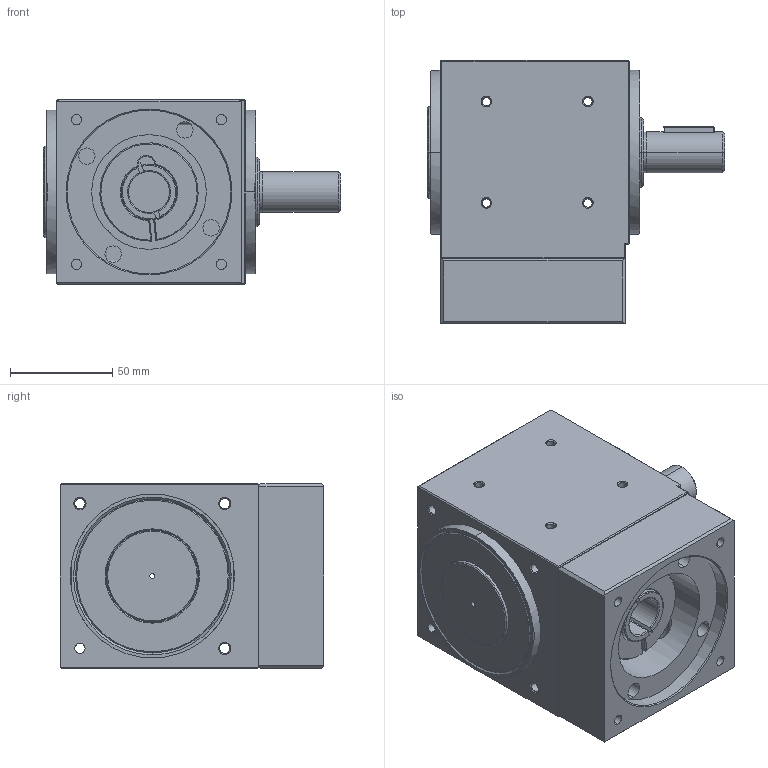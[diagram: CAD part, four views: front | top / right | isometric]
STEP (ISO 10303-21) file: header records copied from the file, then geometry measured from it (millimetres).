
FILE_DESCRIPTION (( 'STEP AP203' ), '1' );
FILE_NAME ('RAS90-R2.STEP', '2018-05-09T06:35:49', ( 'user' ), ( '' ), 'SwSTEP 2.0', 'SolidWorks 2014', '' );
FILE_SCHEMA (( 'CONFIG_CONTROL_DESIGN' ));
Length unit declared in the file: millimetre
Products named in the file (1): RAS90-R2
Bounding box: 145 x 128.7 x 90 mm (x, y, z)
Surface area: 99577 mm2 (no closed solid volume)
Topology: 0 solids, 10 shells, 228 faces, 614 edges, 397 vertices
Faces by surface type: cylinder 85, plane 72, cone 65, torus 6
Entity records: 7695 total; most frequent: CARTESIAN_POINT 1820, DIRECTION 1286, ORIENTED_EDGE 1079, EDGE_CURVE 612, AXIS2_PLACEMENT_3D 483, VERTEX_POINT 397, LINE 320, VECTOR 320
